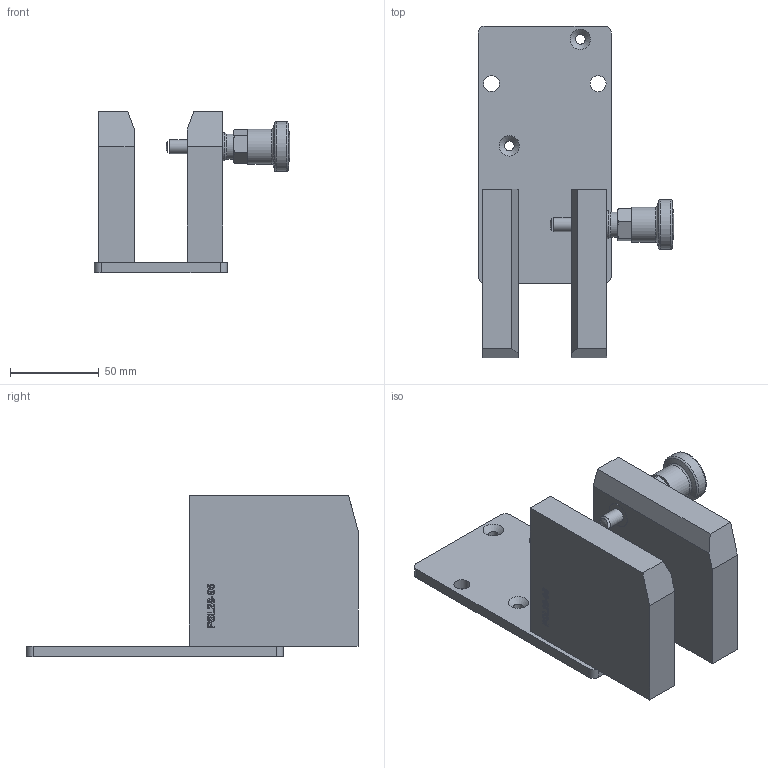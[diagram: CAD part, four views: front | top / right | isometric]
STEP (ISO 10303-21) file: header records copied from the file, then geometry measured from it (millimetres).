
FILE_DESCRIPTION(/* description */ (''),/* implementation_level */ '2;1');
FILE_NAME(/* name */ 'P:\Standard products\2. QDC Clamping Systems\10. PS - Parkstations\PSL28-95 (17-09-19).stp',/* time_stamp */ '2019-09-17T13:29:06+02:00',/* author */ ('breep'),/* organization */ (''),/* preprocessor_version */ 'ST-DEVELOPER v17.2',/* originating_system */ 'Autodesk Inventor 2019',/* authorisation */ '');
FILE_SCHEMA (('AUTOMOTIVE_DESIGN { 1 0 10303 214 3 1 1 }'));
Length unit declared in the file: millimetre
Products named in the file (1): Part6
Bounding box: 110.19 x 187 x 91 mm (x, y, z)
Volume: 392676.8 mm3; surface area: 70982.5 mm2
Topology: 1 solids, 9 shells, 371 faces, 989 edges, 662 vertices
Faces by surface type: plane 160, bspline 138, cone 38, cylinder 30, torus 3, sphere 2
Full cylindrical faces by diameter (mm): 5.5 x2, 6.647 x4, 8 x5, 9 x2, 9.5 x4, 14.16 x1, 14.376 x1, 16 x5, 19.6 x1, 28 x1
Entity records: 12575 total; most frequent: CARTESIAN_POINT 3825, ORIENTED_EDGE 1962, DIRECTION 1268, EDGE_CURVE 981, VERTEX_POINT 662, LINE 506, VECTOR 506, EDGE_LOOP 421
